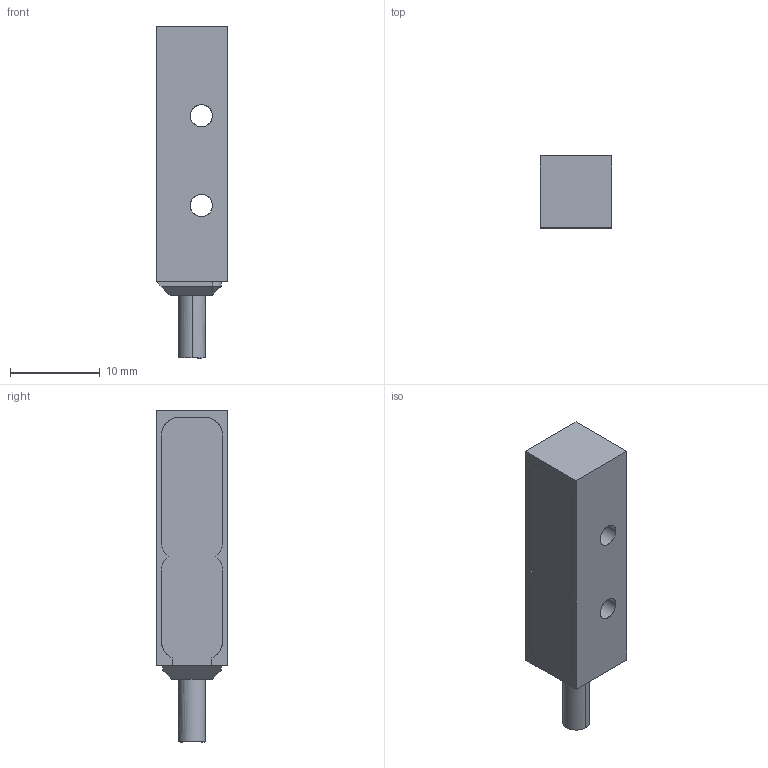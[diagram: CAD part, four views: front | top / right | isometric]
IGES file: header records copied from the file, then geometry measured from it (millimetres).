
Start section: Comment
Global section: file name: IFFM 08xxx02_O1L.igs; native system:  By Spatial Corp.; preprocessor: XPlus GENERIC/IGES 3.0; author: Author; organization: Title; date: 20060628.095223; units: millimetre
Bounding box: 8 x 8 x 37 mm (x, y, z)
Surface area: 1239.7 mm2 (no closed solid volume)
Topology: 0 solids, 0 shells, 49 faces, 250 edges, 248 vertices
Faces by surface type: bspline 49
